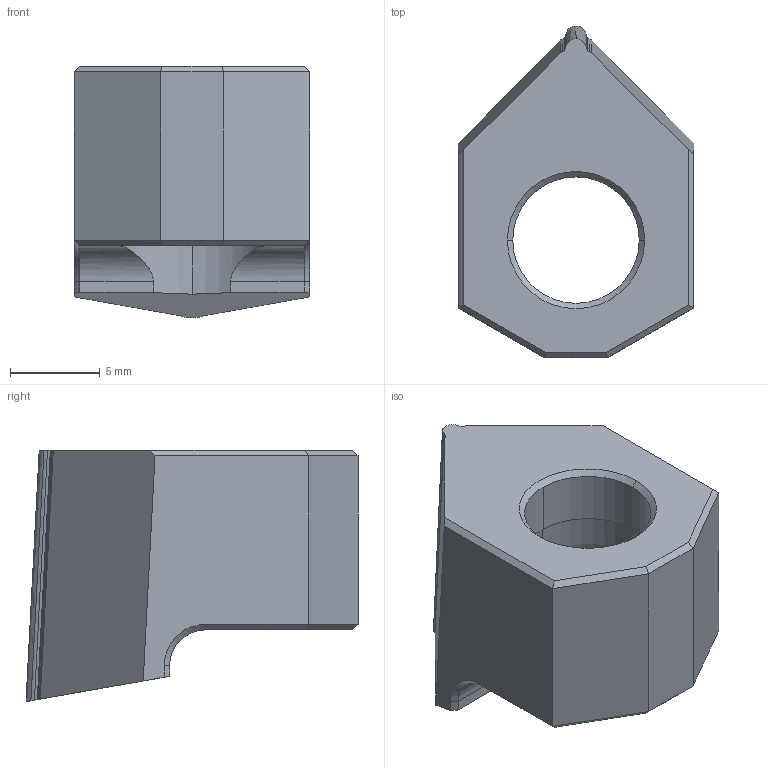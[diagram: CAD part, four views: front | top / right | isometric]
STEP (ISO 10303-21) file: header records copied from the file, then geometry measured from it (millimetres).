
FILE_DESCRIPTION (( 'STEP AP214' ), '1' );
FILE_NAME ('HIN-PG2-26_56.STEP', '2024-06-08T06:18:40', ( 'Paolo' ), ( '' ), 'SwSTEP 2.0', 'SolidWorks 2020', '' );
FILE_SCHEMA (( 'AUTOMOTIVE_DESIGN' ));
Length unit declared in the file: millimetre
Products named in the file (1): HIN-PG2-26_56
Bounding box: 13.1 x 18.5 x 14 mm (x, y, z)
Volume: 1529.8 mm3; surface area: 1102 mm2
Topology: 1 solids, 1 shells, 48 faces, 125 edges, 78 vertices
Faces by surface type: plane 24, bspline 12, cylinder 6, cone 4, torus 2
Entity records: 1665 total; most frequent: CARTESIAN_POINT 546, ORIENTED_EDGE 250, DIRECTION 189, EDGE_CURVE 125, LINE 79, VECTOR 79, VERTEX_POINT 78, AXIS2_PLACEMENT_3D 55
